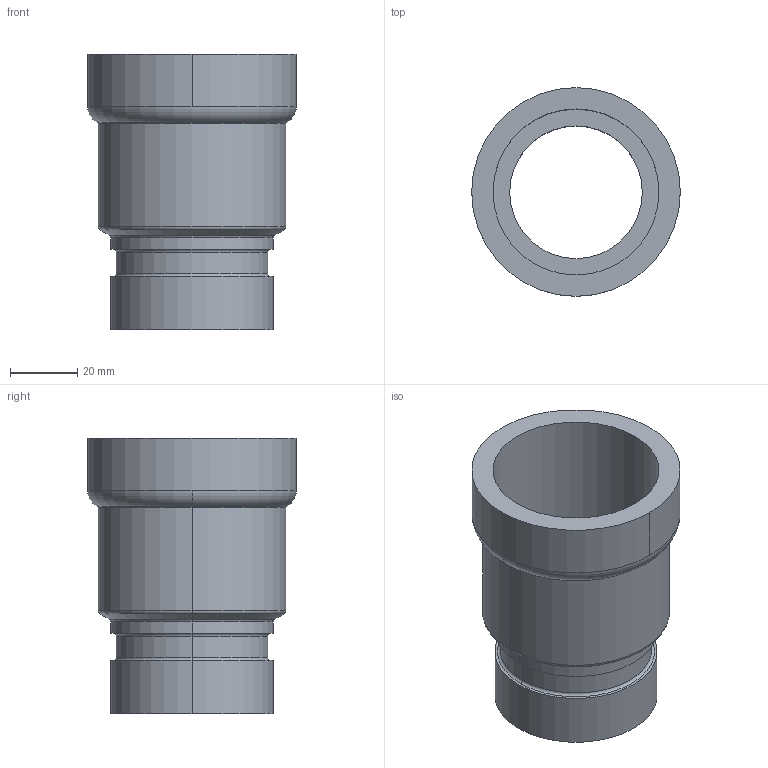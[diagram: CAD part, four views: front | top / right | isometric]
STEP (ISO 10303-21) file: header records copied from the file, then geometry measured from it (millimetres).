
FILE_DESCRIPTION(('Creo Elements/Direct Modeling STEP Export'),'2;1');
FILE_NAME('C9448_1-1-2.stp','2020-07-20T16:15:52',(''),(''),'PTC Creo Elements/Direct Modeling STEP processor for AP214 (Solid Model)','PTC Creo Elements/Direct Modeling 19.0C 15-Aug-2015 (C) Parametric Technology GmbH','');
FILE_SCHEMA(('AUTOMOTIVE_DESIGN { 1 0 10303 214 1 1 1 1 }'));
Length unit declared in the file: millimetre
Products named in the file (2): C9448_1-1-2
Assembly tree (1 placements, depth 2):
  C9448_1-1-2
    C9448_1-1-2
Bounding box: 62 x 62 x 81.95 mm (x, y, z)
Volume: 56939.7 mm3; surface area: 28995.1 mm2
Topology: 1 solids, 1 shells, 33 faces, 72 edges, 44 vertices
Faces by surface type: cylinder 14, torus 12, plane 5, cone 2
Entity records: 850 total; most frequent: DIRECTION 148, ORIENTED_EDGE 144, CARTESIAN_POINT 126, EDGE_CURVE 72, AXIS2_PLACEMENT_3D 66, VERTEX_POINT 44, EDGE_LOOP 38, FACE_OUTER_BOUND 33
